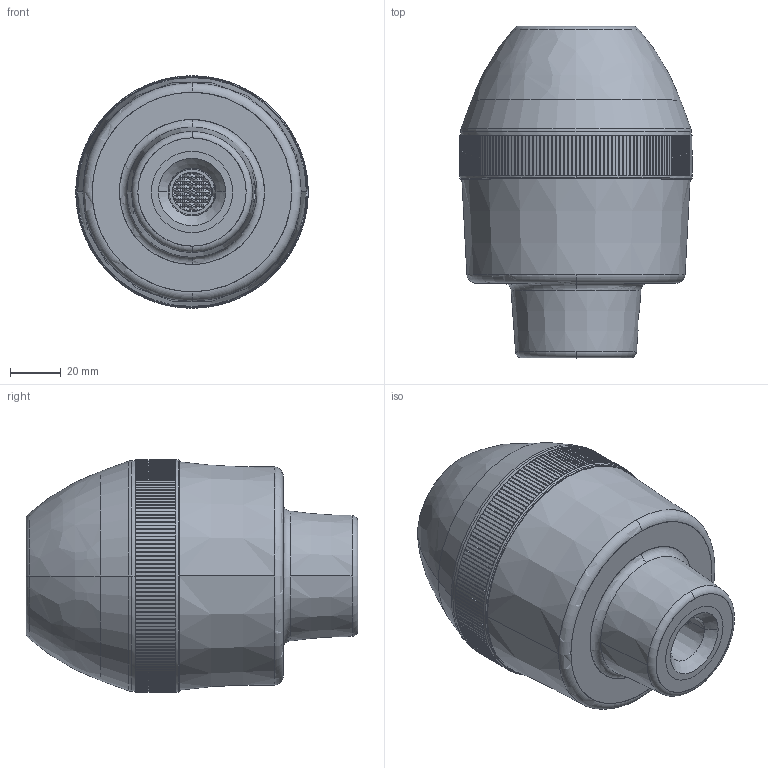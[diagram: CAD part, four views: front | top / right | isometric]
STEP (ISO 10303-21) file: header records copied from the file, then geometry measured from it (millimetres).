
FILE_DESCRIPTION((''),'2;1');
FILE_NAME('40348-LEDBEACN-NPT_SW0001','2015-01-28T',('WJPreisc'),('Rockwell Automation'),'PRO/ENGINEER BY PARAMETRIC TECHNOLOGY CORPORATION, 2012480','PRO/ENGINEER BY PARAMETRIC TECHNOLOGY CORPORATION, 2012480','');
FILE_SCHEMA(('CONFIG_CONTROL_DESIGN'));
Length unit declared in the file: millimetre
Products named in the file (1): 40348-LEDBEACN-NPT_SW0001
Bounding box: 91.6 x 130.84 x 91.6 mm (x, y, z)
Surface area: 105635.4 mm2 (no closed solid volume)
Topology: 0 solids, 26 shells, 8133 faces, 17025 edges, 8715 vertices
Faces by surface type: plane 7516, bspline 254, cylinder 235, cone 100, torus 26, sphere 2
Entity records: 212506 total; most frequent: CARTESIAN_POINT 51123, ORIENTED_EDGE 32854, DIRECTION 31001, EDGE_CURVE 17021, VECTOR 13221, LINE 13221, AXIS2_PLACEMENT_3D 8890, VERTEX_POINT 8715
